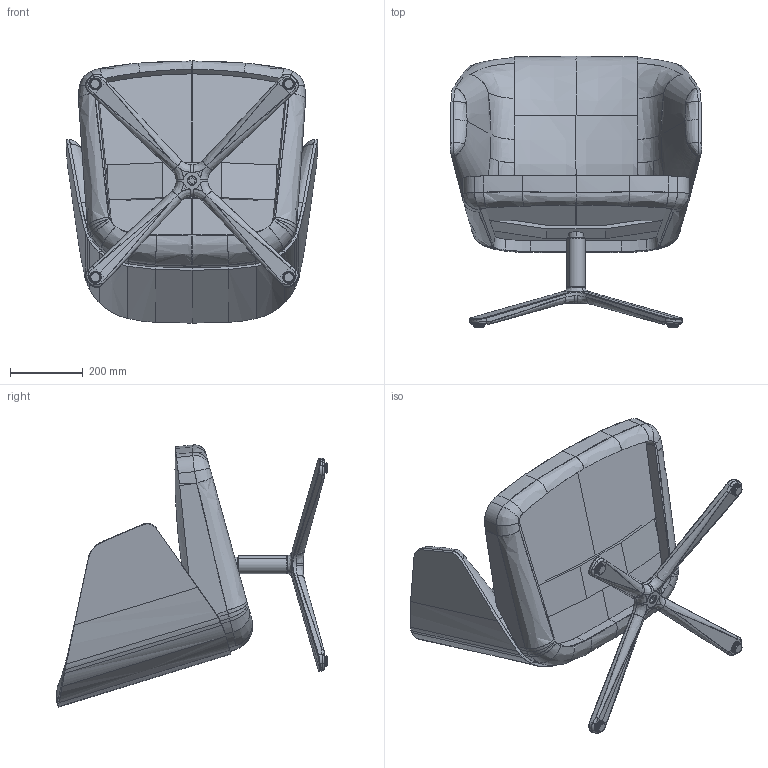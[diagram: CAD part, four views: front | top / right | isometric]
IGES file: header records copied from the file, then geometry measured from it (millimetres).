
Start section: SolidWorks IGES file using analytic representation for surfaces
Global section: file name: G:\Product Info\Back Me Up Salon & Lounge\3d\igs\BMU Lounge draaivoet.IGS; native system: SolidWorks 2016; preprocessor: SolidWorks 2016; author: remko; date: 161213.181812; units: millimetre
Bounding box: 691.85 x 748.09 x 721.11 mm (x, y, z)
Surface area: 3428146.6 mm2 (no closed solid volume)
Topology: 0 solids, 0 shells, 572 faces, 9074 edges, 9073 vertices
Faces by surface type: bspline 329, revolution 243
